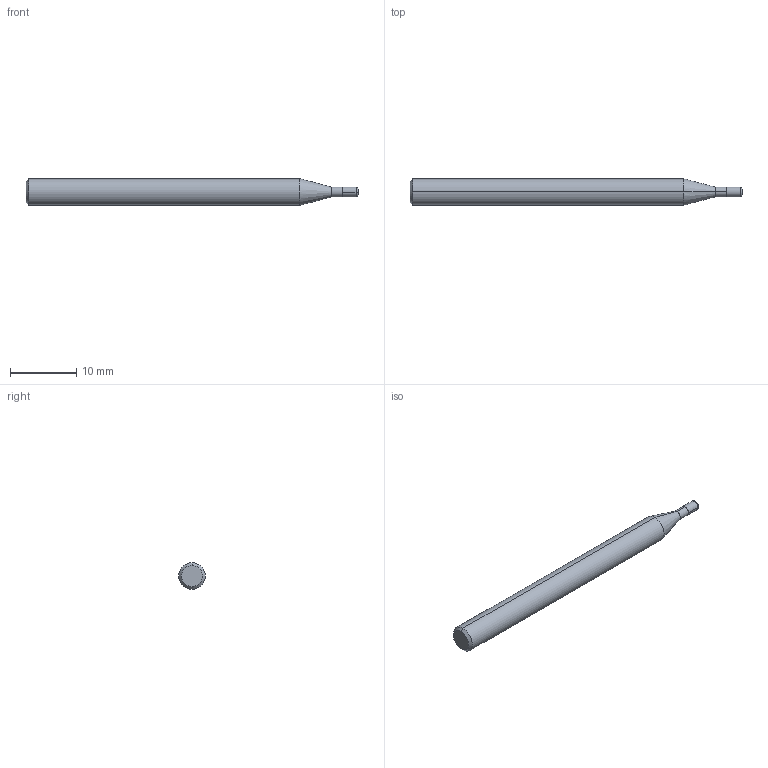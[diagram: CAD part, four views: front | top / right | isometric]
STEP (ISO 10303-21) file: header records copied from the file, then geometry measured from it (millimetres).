
FILE_DESCRIPTION (( 'STEP AP214' ), '1' );
FILE_NAME ('SEME610150304E.STEP', '2018-03-30T00:03:42', ( '' ), ( '' ), 'SwSTEP 2.0', 'SolidWorks 2014', '' );
FILE_SCHEMA (( 'AUTOMOTIVE_DESIGN' ));
Length unit declared in the file: millimetre
Products named in the file (1): SEME610150304E
Bounding box: 50 x 4 x 4 mm (x, y, z)
Volume: 553.9 mm3; surface area: 593 mm2
Topology: 2 solids, 2 shells, 16 faces, 28 edges, 16 vertices
Faces by surface type: cylinder 6, cone 4, plane 4, torus 2
Entity records: 429 total; most frequent: DIRECTION 80, CARTESIAN_POINT 61, ORIENTED_EDGE 56, AXIS2_PLACEMENT_3D 35, EDGE_CURVE 28, CIRCLE 18, FACE_OUTER_BOUND 16, EDGE_LOOP 16
